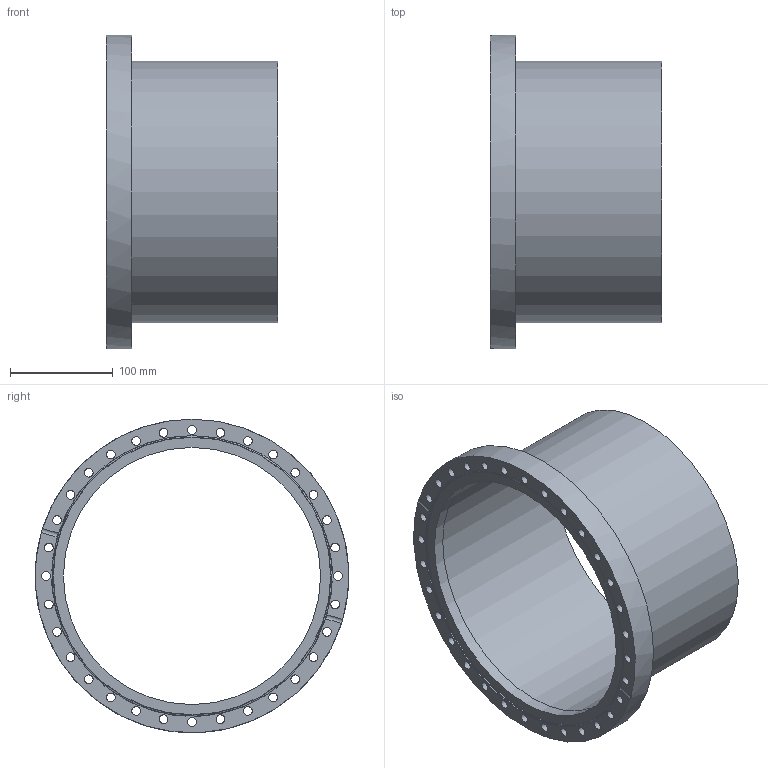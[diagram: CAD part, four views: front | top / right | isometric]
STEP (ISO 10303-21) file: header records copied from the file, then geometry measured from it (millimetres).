
FILE_DESCRIPTION( ( 'Unknown' ), '1' );
FILE_NAME( 'X:/Daten ( aktueller Bestand )/Projekte und Zeichnungen/Solid Edge/STP-Dateien/CF-Teile/7577F4.stp', 'Unknown', ( 'Unknown' ), ( 'Unknown' ), 'PSStep 14.0', 'Unknown', ' ' );
FILE_SCHEMA( ( 'AUTOMOTIVE_DESIGN { 1 0 10303 214 1 1 1 1 }' ) );
Length unit declared in the file: millimetre
Products named in the file (3): Assem1; 7517F; 7577F-1
Assembly tree (2 placements, depth 2):
  Assem1
    7517F
    7577F-1
Bounding box: 167 x 305 x 305 mm (x, y, z)
Volume: 765793.7 mm3; surface area: 357147.4 mm2
Topology: 2 solids, 2 shells, 49 faces, 162 edges, 118 vertices
Faces by surface type: cylinder 40, plane 7, cone 2
Full cylindrical faces by diameter (mm): 8.4 x32, 250 x2, 254 x1, 254.5 x1, 273 x1, 305 x1
Entity records: 1992 total; most frequent: CARTESIAN_POINT 292, DIRECTION 268, ORIENTED_EDGE 176, EDGE_LOOP 158, AXIS2_PLACEMENT_3D 132, EDGE_CURVE 88, FACE_OUTER_BOUND 87, VERTEX_POINT 84
